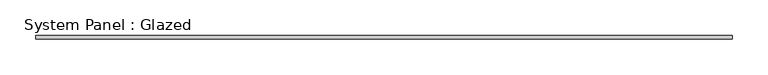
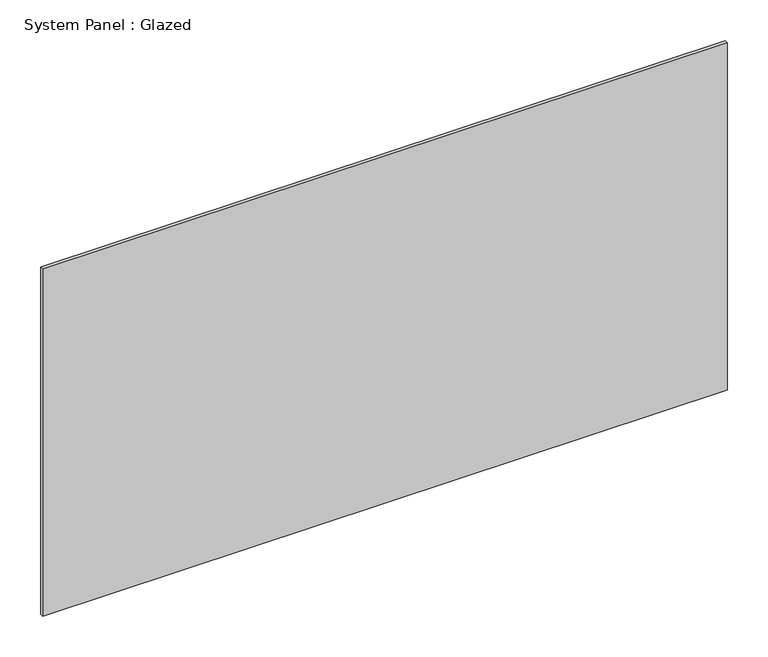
"""IFC4 building model written with IfcOpenShell, lengths in millimetres: plate geometry, System Panel : Glazed."""

import ifcopenshell
import ifcopenshell.guid

model = None  # the IFC model being written
_history = None  # IfcOwnerHistory: only IFC2X3 demands one
_inside = {}  # id of a spatial element -> (the spatial element, [elements in it])
_under = {}  # id of a project, library or spatial element -> (it, [spatial elements below it])
_declared = {}  # id of a project -> (the project, [libraries it declares])
_typed = {}  # id of a type object -> (the type object, [elements of that type])
_made_of = {}  # id of a material, layer set ... -> (it, [elements and type objects made of it])


def new_model(schema):
    """Start an empty IFC model of exactly this schema.

    Asked for "IFC4X3", IfcOpenShell would pick the latest addendum, in which some entities
    have other attributes; the version numbers below select the first issue.
    IFC2X3 requires an IfcOwnerHistory on every rooted entity: one is made here for all.
    """
    global model, _history
    if schema == "IFC4X3":
        model = ifcopenshell.file(schema_version=(4, 3, 0, 0))
    else:
        model = ifcopenshell.file(schema=schema)
    _inside.clear()
    _under.clear()
    _declared.clear()
    _typed.clear()
    _made_of.clear()
    _history = None
    if model.schema == "IFC2X3":
        org = make("IfcOrganization", Name="unknown")
        user = make(
            "IfcPersonAndOrganization",
            ThePerson=make("IfcPerson", FamilyName="unknown"),
            TheOrganization=org,
        )
        app = make(
            "IfcApplication",
            ApplicationDeveloper=org,
            Version="unknown",
            ApplicationFullName="unknown",
            ApplicationIdentifier="unknown",
        )
        _history = make(
            "IfcOwnerHistory",
            OwningUser=user,
            OwningApplication=app,
            ChangeAction="ADDED",
            CreationDate=0,
        )
    return model


def make(cls, **values):
    """One entity of the class cls with the attributes given. An attribute that is None is left unset."""
    return model.create_entity(
        cls, **{name: value for name, value in values.items() if value is not None}
    )


def rooted(cls, **values):
    """An entity with a GlobalId (a new one), such as an element, a storey or a relation."""
    return make(cls, GlobalId=ifcopenshell.guid.new(), OwnerHistory=_history, **values)


def si_unit(unit_type, name, prefix=None):
    """IfcSIUnit, for example si_unit("LENGTHUNIT", "METRE", prefix="MILLI")."""
    return make("IfcSIUnit", UnitType=unit_type, Prefix=prefix, Name=name)


def assignment(units):
    """IfcUnitAssignment: the units of a project."""
    return None if units is None else make("IfcUnitAssignment", Units=units)


def point(xyz):
    """IfcCartesianPoint."""
    return None if xyz is None else make("IfcCartesianPoint", Coordinates=xyz)


def direction(xyz):
    """IfcDirection."""
    return None if xyz is None else make("IfcDirection", DirectionRatios=xyz)


def frame(location, z_axis=None, x_axis=None):
    """IfcAxis2Placement3D, a coordinate frame: its origin and axes. An axis left out is left unset."""
    return make(
        "IfcAxis2Placement3D",
        Location=point(location),
        Axis=direction(z_axis),
        RefDirection=direction(x_axis),
    )


def origin():
    """The frame at (0, 0, 0) with its axes left unset."""
    return frame((0.0, 0.0, 0.0))


def origin_with_axes():
    """The frame at (0, 0, 0) with the z axis (0, 0, 1) and the x axis (1, 0, 0) written out."""
    return frame((0.0, 0.0, 0.0), z_axis=(0.0, 0.0, 1.0), x_axis=(1.0, 0.0, 0.0))


def place(relative_to, where):
    """IfcLocalPlacement: puts the frame where relative to a parent placement (None: the world)."""
    return make(
        "IfcLocalPlacement", PlacementRelTo=relative_to, RelativePlacement=where
    )


def context(
    kind, dimensions, precision=None, world=None, true_north=None, identifier=None
):
    """IfcGeometricRepresentationContext, for example the 3D "Model" context."""
    return make(
        "IfcGeometricRepresentationContext",
        ContextIdentifier=identifier,
        ContextType=kind,
        CoordinateSpaceDimension=dimensions,
        Precision=precision,
        WorldCoordinateSystem=world,
        TrueNorth=true_north,
    )


def project(units=None, contexts=None):
    """IfcProject with its units and contexts."""
    return rooted(
        "IfcProject",
        Name="project",
        RepresentationContexts=contexts,
        UnitsInContext=assignment(units),
    )


def spatial(cls, under=None, at=None, **own):
    """A site, building, storey or space (cls), placed at a placement, below another one or the project."""
    s = rooted(cls, ObjectPlacement=at, **own)
    if under is not None:
        _under.setdefault(under.id(), (under, []))[1].append(s)
    return s


def polyline(points):
    """IfcPolyline through the points."""
    return make("IfcPolyline", Points=[point(p) for p in points])


def outline(outer, holes=None, kind="AREA"):
    """IfcArbitraryClosedProfileDef: a profile drawn as a closed curve; with holes, ...WithVoids."""
    if holes is None:
        return make("IfcArbitraryClosedProfileDef", ProfileType=kind, OuterCurve=outer)
    return make(
        "IfcArbitraryProfileDefWithVoids",
        ProfileType=kind,
        OuterCurve=outer,
        InnerCurves=holes,
    )


def extrude(swept, where, along, depth):
    """IfcExtrudedAreaSolid: the profile swept, set in the frame where, extruded along a direction by depth."""
    return make(
        "IfcExtrudedAreaSolid",
        SweptArea=swept,
        Position=where,
        ExtrudedDirection=direction(along),
        Depth=depth,
    )


def shape(context_of_items, identifier, shape_type, items):
    """IfcShapeRepresentation: the items that make up one representation, for example the "Body"."""
    return make(
        "IfcShapeRepresentation",
        ContextOfItems=context_of_items,
        RepresentationIdentifier=identifier,
        RepresentationType=shape_type,
        Items=items,
    )


def source(mapping_origin, context_of_items, identifier, shape_type, items):
    """IfcRepresentationMap: a shape defined once, which mapped items show again and again."""
    return make(
        "IfcRepresentationMap",
        MappingOrigin=mapping_origin,
        MappedRepresentation=shape(context_of_items, identifier, shape_type, items),
    )


def transform(
    local_origin,
    x_axis=None,
    y_axis=None,
    z_axis=None,
    scale=None,
    scale2=None,
    scale3=None,
    uniform=True,
):
    """IfcCartesianTransformationOperator3D, or its non-uniform kind. x_axis, y_axis, z_axis: its Axis1, 2, 3."""
    if uniform:
        return make(
            "IfcCartesianTransformationOperator3D",
            Axis1=direction(x_axis),
            Axis2=direction(y_axis),
            LocalOrigin=point(local_origin),
            Scale=scale,
            Axis3=direction(z_axis),
        )
    return make(
        "IfcCartesianTransformationOperator3DnonUniform",
        Axis1=direction(x_axis),
        Axis2=direction(y_axis),
        LocalOrigin=point(local_origin),
        Scale=scale,
        Axis3=direction(z_axis),
        Scale2=scale2,
        Scale3=scale3,
    )


def mapped(mapping_source, mapping_target):
    """IfcMappedItem: shows the shape of a source again, moved by a transform."""
    return make(
        "IfcMappedItem", MappingSource=mapping_source, MappingTarget=mapping_target
    )


def made_of(thing, what):
    """Note that an element or type object is made of a material, layer set ...; save() writes the relation."""
    if what is not None:
        _made_of.setdefault(what.id(), (what, []))[1].append(thing)
    return thing


def element(
    cls,
    number,
    at=None,
    inside=None,
    cuts=None,
    type_object=None,
    material=None,
    context=None,
    identifier="Body",
    shape_type=None,
    held_by="IfcProductDefinitionShape",
    body=None,
    shapes=None,
    **own,
):
    """One element of the class cls, such as IfcWall. Its Tag is "e" and its number.

    at: its placement. inside: the storey or other place that contains it. cuts: it is an
    opening in that element (IfcRelVoidsElement). A single representation is given by context,
    identifier, shape_type and body (its items); several are given by shapes. held_by: the class
    of the entity that holds the representations. save() writes the other relations.
    """
    e = rooted(cls, Tag="e%d" % number, ObjectPlacement=at, **own)
    if body is not None:
        shapes = [shape(context, identifier, shape_type, body)]
    if shapes is not None:
        e.Representation = make(held_by, Representations=shapes)
    if inside is not None:
        _inside.setdefault(inside.id(), (inside, []))[1].append(e)
    if cuts is not None:
        rooted(
            "IfcRelVoidsElement", RelatingBuildingElement=cuts, RelatedOpeningElement=e
        )
    if type_object is not None:
        _typed.setdefault(type_object.id(), (type_object, []))[1].append(e)
    return made_of(e, material)


def aggregate(whole, parts):
    """IfcRelAggregates: a whole, such as a stair, and the parts it consists of."""
    return rooted("IfcRelAggregates", RelatingObject=whole, RelatedObjects=parts)


def save(model, path):
    """Write the relations noted so far, then the file.

    IfcRelAggregates (storeys below a building ...), IfcRelContainedInSpatialStructure (elements
    in a storey), IfcRelDefinesByType, IfcRelAssociatesMaterial and IfcRelDeclares: one each for
    every whole, place, type object, material and project.
    """
    for whole, parts in _under.values():
        aggregate(whole, parts)
    for where, things in _inside.values():
        rooted(
            "IfcRelContainedInSpatialStructure",
            RelatedElements=things,
            RelatingStructure=where,
        )
    for kind, things in _typed.values():
        rooted("IfcRelDefinesByType", RelatedObjects=things, RelatingType=kind)
    for what, things in _made_of.values():
        rooted("IfcRelAssociatesMaterial", RelatedObjects=things, RelatingMaterial=what)
    for by, libraries in _declared.values():
        rooted("IfcRelDeclares", RelatingContext=by, RelatedDefinitions=libraries)
    model.write(path)


def system_panel_glazed_9b35e2bb(model_context):
    return source(origin(), model_context, "Body", "SweptSolid", [
        extrude(outline(polyline([(487.5, -2.5), (-487.5, -2.5), (-487.5, 2.5), (487.5, 2.5), (487.5, -2.5)])), origin_with_axes(), (0.0, 0.0, 1.0), 522.9584148),
    ])


if __name__ == "__main__":
    model = new_model("IFC4")
    model_context = context("Model", 3, world=origin())
    ifc_project = project(units=[si_unit("LENGTHUNIT", "METRE", prefix="MILLI")], contexts=[model_context])
    site = spatial("IfcSite", under=ifc_project)
    building = spatial("IfcBuilding", under=site)
    placement = place(None, origin())
    system_panel_glazed_shape = system_panel_glazed_9b35e2bb(model_context)
    element("IfcPlate", 1, ObjectType="System Panel : Glazed", at=placement, inside=building, context=model_context, shape_type="MappedRepresentation", body=[
        mapped(system_panel_glazed_shape, transform((0.0, 0.0, 0.0), x_axis=(1.0, 0.0, 0.0), y_axis=(0.0, 1.0, 0.0), z_axis=(0.0, 0.0, 1.0))),
    ])
    save(model, "model.ifc")
